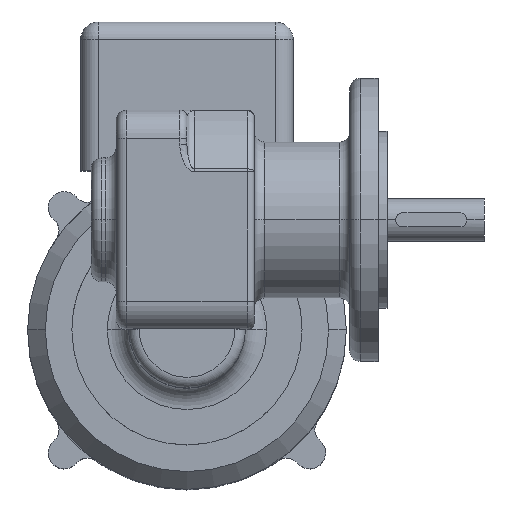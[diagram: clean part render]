
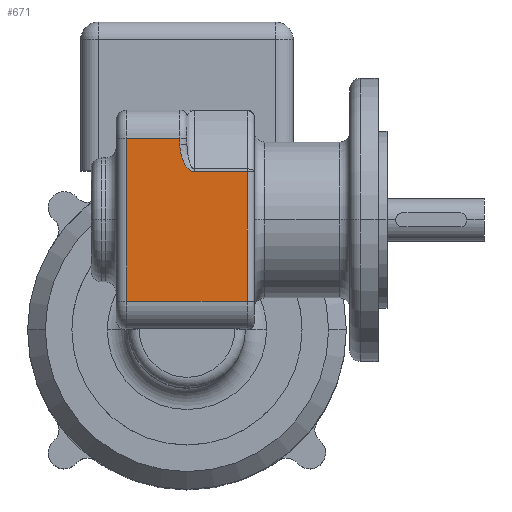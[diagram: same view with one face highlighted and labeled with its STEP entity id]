
A CAD part, top view. The second image highlights one B-rep face of the part: STEP entity #671.
In plain terms, the highlighted planar face has unit normal (0, 0, 1).
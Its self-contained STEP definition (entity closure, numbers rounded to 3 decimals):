
#671 = ADVANCED_FACE ( 'NONE', ( #2993 ), #2989, .F. ) ;
#672 = EDGE_LOOP ( 'NONE', ( #673, #677, #680, #683, #743, #746, #749 ) ) ;
#673 = ORIENTED_EDGE ( 'NONE', *, *, #674, .T. ) ;
#674 = EDGE_CURVE ( 'NONE', #675, #676, #2984, .T. ) ;
#675 = VERTEX_POINT ( 'NONE', #2980 ) ;
#676 = VERTEX_POINT ( 'NONE', #2979 ) ;
#677 = ORIENTED_EDGE ( 'NONE', *, *, #678, .T. ) ;
#678 = EDGE_CURVE ( 'NONE', #676, #679, #2977, .T. ) ;
#679 = VERTEX_POINT ( 'NONE', #2976 ) ;
#680 = ORIENTED_EDGE ( 'NONE', *, *, #681, .T. ) ;
#681 = EDGE_CURVE ( 'NONE', #679, #682, #2978, .T. ) ;
#682 = VERTEX_POINT ( 'NONE', #2970 ) ;
#683 = ORIENTED_EDGE ( 'NONE', *, *, #684, .T. ) ;
#684 = EDGE_CURVE ( 'NONE', #682, #685, #3016, .T. ) ;
#685 = VERTEX_POINT ( 'NONE', #3012 ) ;
#743 = ORIENTED_EDGE ( 'NONE', *, *, #744, .T. ) ;
#744 = EDGE_CURVE ( 'NONE', #685, #745, #3134, .T. ) ;
#745 = VERTEX_POINT ( 'NONE', #3130 ) ;
#746 = ORIENTED_EDGE ( 'NONE', *, *, #747, .T. ) ;
#747 = EDGE_CURVE ( 'NONE', #745, #748, #3129, .T. ) ;
#748 = VERTEX_POINT ( 'NONE', #3192 ) ;
#749 = ORIENTED_EDGE ( 'NONE', *, *, #750, .T. ) ;
#750 = EDGE_CURVE ( 'NONE', #748, #675, #3191, .T. ) ;
#2964 = CARTESIAN_POINT ( 'NONE',  ( 0.29, 44.438, 68. ) ) ;
#2965 = CARTESIAN_POINT ( 'NONE',  ( 0.573, 44.164, 68. ) ) ;
#2966 = CARTESIAN_POINT ( 'NONE',  ( 0.727, 44.036, 68. ) ) ;
#2967 = CARTESIAN_POINT ( 'NONE',  ( 1.055, 43.817, 68. ) ) ;
#2968 = CARTESIAN_POINT ( 'NONE',  ( 1.23, 43.725, 68. ) ) ;
#2969 = CARTESIAN_POINT ( 'NONE',  ( 1.606, 43.595, 68. ) ) ;
#2970 = CARTESIAN_POINT ( 'NONE',  ( -2., 53.032, 68. ) ) ;
#2971 = DIRECTION ( 'NONE',  ( 0., 1., 0. ) ) ;
#2972 = VECTOR ( 'NONE', #2971, 1000. ) ;
#2973 = CARTESIAN_POINT ( 'NONE',  ( -2., -0.968, 68. ) ) ;
#2974 = CARTESIAN_POINT ( 'NONE',  ( 1.8, 43.56, 68. ) ) ;
#2975 = CARTESIAN_POINT ( 'NONE',  ( 2., 43.56, 68. ) ) ;
#2976 = CARTESIAN_POINT ( 'NONE',  ( -2., 51.363, 68. ) ) ;
#2977 = B_SPLINE_CURVE_WITH_KNOTS ( 'NONE', 3,
 ( #2975, #2974, #2969, #2968, #2967, #2966, #2965, #2964, #3028, #3027, #3026, #3025, #3024, #3023, #3022, #3021, #3020, #3019, #3018, #3017 ),
 .UNSPECIFIED., .F., .F.,
 ( 4, 2, 2, 2, 2, 2, 2, 2, 2, 4 ),
 ( 0., 0.001, 0.001, 0.002, 0.002, 0.004, 0.005, 0.006, 0.007, 0.009 ),
 .UNSPECIFIED. ) ;
#2978 = LINE ( 'NONE', #2973, #2972 ) ;
#2979 = CARTESIAN_POINT ( 'NONE',  ( 2., 43.56, 68. ) ) ;
#2980 = CARTESIAN_POINT ( 'NONE',  ( 17., 43.56, 68. ) ) ;
#2981 = DIRECTION ( 'NONE',  ( -1., 0., 0. ) ) ;
#2982 = VECTOR ( 'NONE', #2981, 1000. ) ;
#2983 = CARTESIAN_POINT ( 'NONE',  ( 19., 43.56, 68. ) ) ;
#2984 = LINE ( 'NONE', #2983, #2982 ) ;
#2985 = DIRECTION ( 'NONE',  ( -1., 0., 0. ) ) ;
#2986 = DIRECTION ( 'NONE',  ( 0., 0., -1. ) ) ;
#2987 = CARTESIAN_POINT ( 'NONE',  ( 19., -0.968, 68. ) ) ;
#2988 = AXIS2_PLACEMENT_3D ( 'NONE', #2987, #2986, #2985 ) ;
#2989 = PLANE ( 'NONE',  #2988 ) ;
#2993 = FACE_OUTER_BOUND ( 'NONE', #672, .T. ) ;
#3012 = CARTESIAN_POINT ( 'NONE',  ( -17., 53.032, 68. ) ) ;
#3013 = DIRECTION ( 'NONE',  ( -1., 0., 0. ) ) ;
#3014 = VECTOR ( 'NONE', #3013, 1000. ) ;
#3015 = CARTESIAN_POINT ( 'NONE',  ( 19., 53.032, 68. ) ) ;
#3016 = LINE ( 'NONE', #3015, #3014 ) ;
#3017 = CARTESIAN_POINT ( 'NONE',  ( -2., 51.363, 68. ) ) ;
#3018 = CARTESIAN_POINT ( 'NONE',  ( -2., 50.574, 68. ) ) ;
#3019 = CARTESIAN_POINT ( 'NONE',  ( -1.92, 49.798, 68. ) ) ;
#3020 = CARTESIAN_POINT ( 'NONE',  ( -1.699, 48.65, 68. ) ) ;
#3021 = CARTESIAN_POINT ( 'NONE',  ( -1.607, 48.27, 68. ) ) ;
#3022 = CARTESIAN_POINT ( 'NONE',  ( -1.388, 47.516, 68. ) ) ;
#3023 = CARTESIAN_POINT ( 'NONE',  ( -1.26, 47.143, 68. ) ) ;
#3024 = CARTESIAN_POINT ( 'NONE',  ( -0.967, 46.418, 68. ) ) ;
#3025 = CARTESIAN_POINT ( 'NONE',  ( -0.803, 46.064, 68. ) ) ;
#3026 = CARTESIAN_POINT ( 'NONE',  ( -0.425, 45.378, 68. ) ) ;
#3027 = CARTESIAN_POINT ( 'NONE',  ( -0.21, 45.043, 68. ) ) ;
#3028 = CARTESIAN_POINT ( 'NONE',  ( 0.159, 44.584, 68. ) ) ;
#3126 = DIRECTION ( 'NONE',  ( 1., 0., 0. ) ) ;
#3127 = VECTOR ( 'NONE', #3126, 1000. ) ;
#3128 = CARTESIAN_POINT ( 'NONE',  ( 19., 7.032, 68. ) ) ;
#3129 = LINE ( 'NONE', #3128, #3127 ) ;
#3130 = CARTESIAN_POINT ( 'NONE',  ( -17., 7.032, 68. ) ) ;
#3131 = DIRECTION ( 'NONE',  ( 0., -1., 0. ) ) ;
#3132 = VECTOR ( 'NONE', #3131, 1000. ) ;
#3133 = CARTESIAN_POINT ( 'NONE',  ( -17., -0.968, 68. ) ) ;
#3134 = LINE ( 'NONE', #3133, #3132 ) ;
#3188 = DIRECTION ( 'NONE',  ( 0., 1., 0. ) ) ;
#3189 = VECTOR ( 'NONE', #3188, 1000. ) ;
#3190 = CARTESIAN_POINT ( 'NONE',  ( 17., 43.996, 68. ) ) ;
#3191 = LINE ( 'NONE', #3190, #3189 ) ;
#3192 = CARTESIAN_POINT ( 'NONE',  ( 17., 7.032, 68. ) ) ;
